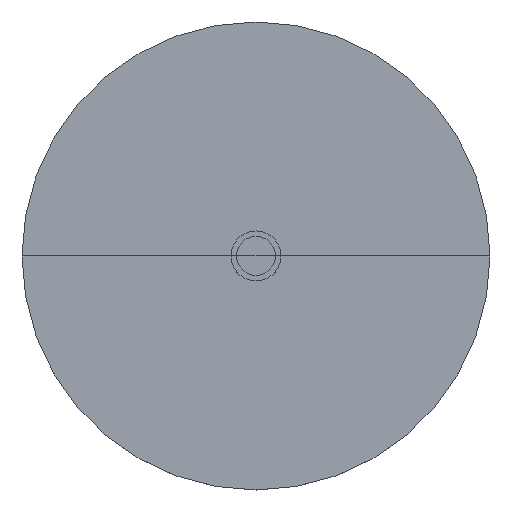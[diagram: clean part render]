
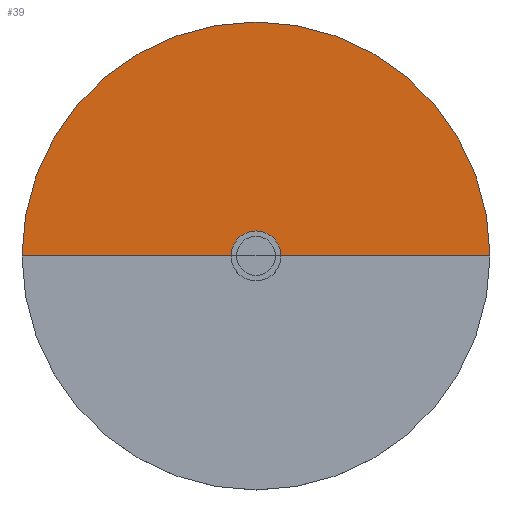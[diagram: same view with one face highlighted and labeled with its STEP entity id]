
A CAD part, top view. The second image highlights one B-rep face of the part: STEP entity #39.
In plain terms, the highlighted planar face has unit normal (0, 0, 1).
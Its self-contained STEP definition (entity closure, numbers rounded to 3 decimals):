
#39 = ADVANCED_FACE('',(#40),#59,.F.);
#40 = FACE_BOUND('',#41,.T.);
#41 = EDGE_LOOP('',(#42,#53));
#42 = ORIENTED_EDGE('',*,*,#43,.T.);
#43 = EDGE_CURVE('',#44,#46,#48,.T.);
#44 = VERTEX_POINT('',#45);
#45 = CARTESIAN_POINT('',(150.,0.,
    -49.2));
#46 = VERTEX_POINT('',#47);
#47 = CARTESIAN_POINT('',(-150.,0.,-49.2));
#48 = CIRCLE('',#49,150.);
#49 = AXIS2_PLACEMENT_3D('',#50,#51,#52);
#50 = CARTESIAN_POINT('',(0.,0.,-49.2));
#51 = DIRECTION('',(0.,0.,1.));
#52 = DIRECTION('',(-1.,0.,0.));
#53 = ORIENTED_EDGE('',*,*,#54,.T.);
#54 = EDGE_CURVE('',#46,#44,#55,.T.);
#55 = LINE('',#56,#57);
#56 = CARTESIAN_POINT('',(-150.,0.,-49.2));
#57 = VECTOR('',#58,1.);
#58 = DIRECTION('',(1.,0.,0.));
#59 = PLANE('',#60);
#60 = AXIS2_PLACEMENT_3D('',#61,#62,#63);
#61 = CARTESIAN_POINT('',(0.,0.,-49.2));
#62 = DIRECTION('',(0.,0.,-1.));
#63 = DIRECTION('',(-1.,0.,0.));
